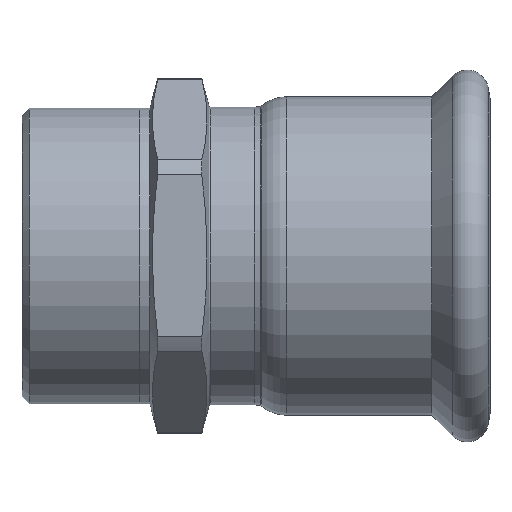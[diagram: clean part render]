
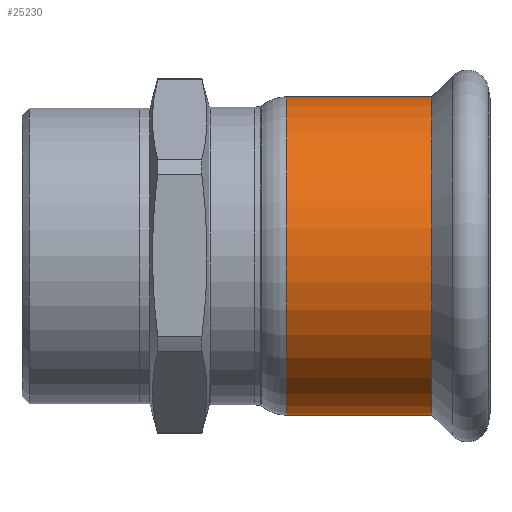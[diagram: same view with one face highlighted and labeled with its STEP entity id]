
A CAD part, top view. The second image highlights one B-rep face of the part: STEP entity #25230.
In plain terms, the highlighted cylindrical face has radius 40.45 mm (diameter 80.9 mm), a partial arc.
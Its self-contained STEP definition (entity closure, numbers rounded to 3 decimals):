
#4010=CARTESIAN_POINT('',(11.5,40.45,0.));
#4020=VERTEX_POINT('',#4010);
#4110=CARTESIAN_POINT('',(11.5,-40.45,0.));
#4120=VERTEX_POINT('',#4110);
#4150=CARTESIAN_POINT('',(11.5,0.,0.));
#4160=DIRECTION('',(1.,0.,0.));
#4170=DIRECTION('',(0.,1.,0.));
#4180=AXIS2_PLACEMENT_3D('',#4150,#4160,#4170);
#4190=CIRCLE('',#4180,40.45);
#4250=CARTESIAN_POINT('',(36.969,0.,0.));
#4260=DIRECTION('',(-1.,0.,0.));
#4270=DIRECTION('',(0.,1.,0.));
#4280=AXIS2_PLACEMENT_3D('',#4250,#4260,#4270);
#4290=CYLINDRICAL_SURFACE('',#4280,40.45);
#4300=CARTESIAN_POINT('',(36.969,-40.45,0.))
;
#4310=DIRECTION('',(-1.,0.,0.));
#4320=VECTOR('',#4310,1.);
#4330=LINE('',#4300,#4320);
#4340=CARTESIAN_POINT('',(48.422,-40.45,0.))
;
#4350=VERTEX_POINT('',#4340);
#4360=EDGE_CURVE('',#4350,#4120,#4330,.T.);
#4380=CARTESIAN_POINT('',(48.422,0.,0.));
#4390=DIRECTION('',(-1.,0.,0.));
#4400=DIRECTION('',(0.,1.,0.));
#4410=AXIS2_PLACEMENT_3D('',#4380,#4390,#4400);
#4420=CIRCLE('',#4410,40.45);
#4430=CARTESIAN_POINT('',(48.422,40.45,0.));
#4440=VERTEX_POINT('',#4430);
#4470=CARTESIAN_POINT('',(36.969,40.45,0.));
#4480=DIRECTION('',(-1.,0.,0.));
#4490=VECTOR('',#4480,1.);
#4500=LINE('',#4470,#4490);
#4510=EDGE_CURVE('',#4440,#4020,#4500,.T.);
#4850=EDGE_CURVE('',#4350,#4440,#4420,.T.);
#25160=ORIENTED_EDGE('',*,*,#4360,.F.);
#25170=EDGE_CURVE('',#4020,#4120,#4190,.T.);
#25180=ORIENTED_EDGE('',*,*,#25170,.T.);
#25190=ORIENTED_EDGE('',*,*,#4510,.T.);
#25200=ORIENTED_EDGE('',*,*,#4850,.T.);
#25210=EDGE_LOOP('',(#25200,#25190,#25180,#25160));
#25220=FACE_OUTER_BOUND('',#25210,.T.);
#25230=ADVANCED_FACE('',(#25220),#4290,.T.);
